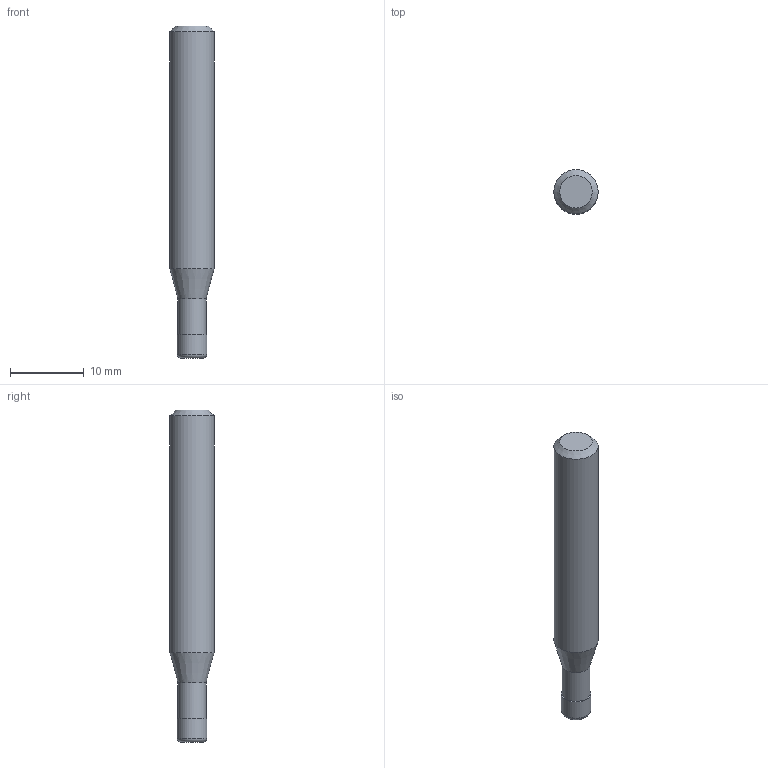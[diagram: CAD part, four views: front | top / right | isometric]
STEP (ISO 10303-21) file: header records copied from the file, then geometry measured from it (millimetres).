
FILE_DESCRIPTION((''),'2;1');
FILE_NAME('C:\Users\nsx150\AppData\Local\Temp\Mastercam 2021\8MCJJJGUOI\TEMP.step','2022-10-12T10:46:15',(''),(''),'STEP Write','Mastercam 2021 ... CNC Software, Inc.','');
FILE_SCHEMA(('AUTOMOTIVE_DESIGN'));
Length unit declared in the file: millimetre
Products named in the file (1): None
Bounding box: 6 x 6 x 45 mm (x, y, z)
Volume: 1097.3 mm3; surface area: 835.3 mm2
Topology: 2 solids, 2 shells, 10 faces, 14 edges, 8 vertices
Faces by surface type: plane 4, cylinder 3, cone 2, torus 1
Full cylindrical faces by diameter (mm): 3.8 x1, 4 x1, 6 x1
Entity records: 232 total; most frequent: DIRECTION 40, CARTESIAN_POINT 28, AXIS2_PLACEMENT_3D 20, ORIENTED_EDGE 16, EDGE_LOOP 16, STYLED_ITEM 13, ADVANCED_FACE 10, FACE_BOUND 10
